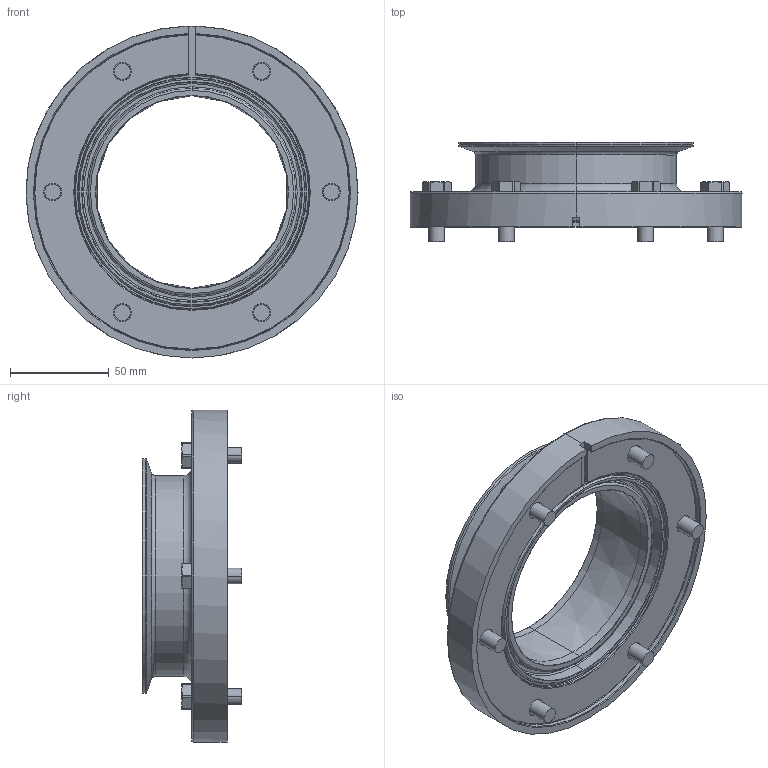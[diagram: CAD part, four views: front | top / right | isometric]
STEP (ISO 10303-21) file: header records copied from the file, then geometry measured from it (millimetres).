
FILE_DESCRIPTION (( 'STEP AP203' ), '1' );
FILE_NAME ('CAD_STP_Z_1839.STEP', '2024-09-24T13:03:32', ( '' ), ( '' ), 'SwSTEP 2.0', 'SolidWorks 2022', '' );
FILE_SCHEMA (( 'CONFIG_CONTROL_DESIGN' ));
Length unit declared in the file: millimetre
Products named in the file (3): CAD_STP_Z_1839; P_MZ_Z_1839_p1; P_MZ_Z_1893_P2
Assembly tree (7 placements, depth 2):
  CAD_STP_Z_1839
    P_MZ_Z_1839_p1
    P_MZ_Z_1893_P2  x6
Bounding box: 168 x 50.3 x 168 mm (x, y, z)
Volume: 246177.9 mm3; surface area: 76897.5 mm2
Topology: 7 solids, 7 shells, 241 faces, 560 edges, 350 vertices
Faces by surface type: plane 107, cylinder 52, cone 52, torus 30
Entity records: 3564 total; most frequent: CARTESIAN_POINT 604, DIRECTION 593, ORIENTED_EDGE 490, AXIS2_PLACEMENT_3D 259, EDGE_CURVE 245, VERTEX_POINT 150, CIRCLE 143, EDGE_LOOP 127
